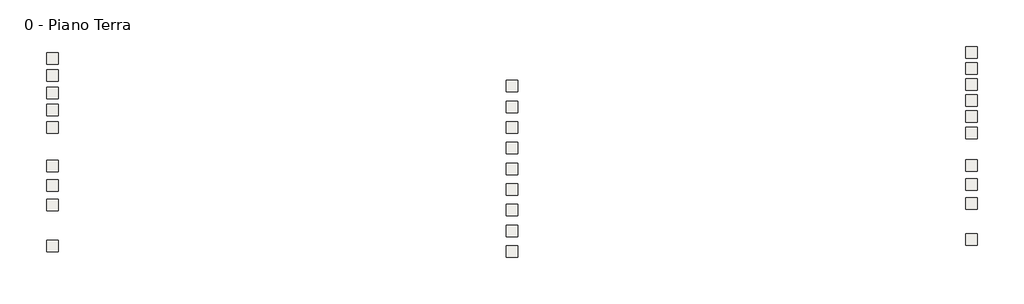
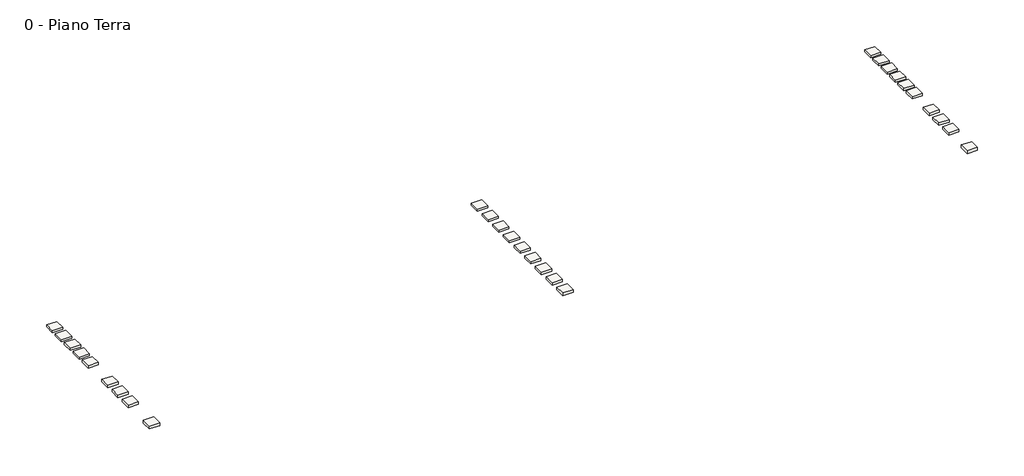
# One storey: 28 roofs.
"""IFC4 building model written with IfcOpenShell, lengths in millimetres."""

from ifc_helpers import new_model, si_unit, origin, origin_with_axes, place, context, project, spatial, polyline, outline, extrude, element, save

model = new_model("IFC4")

# Units and contexts
model_context = context("Model", 3, world=origin())
ifc_project = project(units=[si_unit("LENGTHUNIT", "METRE", prefix="MILLI")], contexts=[model_context])

# Site, building, storey
site = spatial("IfcSite", under=ifc_project)
building = spatial("IfcBuilding", under=site)
storey = spatial("IfcBuildingStorey", under=building, Name="0 - Piano Terra", Elevation=0.0)

# Roofs
placement = place(None, origin())
element("IfcRoof", 1, ObjectType="Sistema STIFERITE PENDENZATO con pannello CLASS B 30-70 mm ʎd 0,028 W/mK 30mm", at=placement, inside=storey, context=model_context, shape_type="SweptSolid", body=[
    extrude(outline(polyline([(18800.0, 59417.4866671), (19800.0, 59417.4866671), (19800.0, 58417.4866671), (18800.0, 58417.4866671), (18800.0, 59417.4866671)])), origin_with_axes(), (0.0, 0.0, 1.0), 202.0),
])
element("IfcRoof", 2, ObjectType="Sistema STIFERITE PENDENZATO con pannello CLASS B 30-70 mm ʎd 0,028 W/mK 40mm", at=placement, inside=storey, context=model_context, shape_type="SweptSolid", body=[
    extrude(outline(polyline([(18800.0, 57914.8515173), (19800.0, 57914.8515173), (19800.0, 56914.8515173), (18800.0, 56914.8515173), (18800.0, 57914.8515173)])), origin_with_axes(), (0.0, 0.0, 1.0), 214.0),
])
element("IfcRoof", 3, ObjectType="Sistema STIFERITE PENDENZATO con pannello CLASS B 30-70 mm ʎd 0,028 W/mK 50mm", at=placement, inside=storey, context=model_context, shape_type="SweptSolid", body=[
    extrude(outline(polyline([(18800.0, 56411.6469535), (19800.0, 56411.6469535), (19800.0, 55411.6469535), (18800.0, 55411.6469535), (18800.0, 56411.6469535)])), origin_with_axes(), (0.0, 0.0, 1.0), 224.0),
])
element("IfcRoof", 4, ObjectType="Sistema STIFERITE PENDENZATO con pannello CLASS B 30-70 mm ʎd 0,028 W/mK 60mm", at=placement, inside=storey, context=model_context, shape_type="SweptSolid", body=[
    extrude(outline(polyline([(18800.0, 54907.9433722), (19800.0, 54907.9433722), (19800.0, 53907.9433722), (18800.0, 53907.9433722), (18800.0, 54907.9433722)])), origin_with_axes(), (0.0, 0.0, 1.0), 234.0),
])
element("IfcRoof", 5, ObjectType="Sistema STIFERITE PENDENZATO con pannello CLASS B 30-70 mm ʎd 0,028 W/mK 70mm", at=placement, inside=storey, context=model_context, shape_type="SweptSolid", body=[
    extrude(outline(polyline([(18800.0, 53407.9433722), (19800.0, 53407.9433722), (19800.0, 52407.9433722), (18800.0, 52407.9433722), (18800.0, 53407.9433722)])), origin_with_axes(), (0.0, 0.0, 1.0), 244.0),
])
element("IfcRoof", 6, ObjectType="Sistema STIFERITE PENDENZATO con pannello CLASS B 80-100 mm ʎd 0,026 W/mK 80mm", at=placement, inside=storey, context=model_context, shape_type="SweptSolid", body=[
    extrude(outline(polyline([(18800.0, 50069.0569029), (19800.0, 50069.0569029), (19800.0, 49069.0569029), (18800.0, 49069.0569029), (18800.0, 50069.0569029)])), origin_with_axes(), (0.0, 0.0, 1.0), 254.0),
])
element("IfcRoof", 7, ObjectType="Sistema STIFERITE PENDENZATO con pannello CLASS B 80-100 mm ʎd 0,026 W/mK 90mm", at=placement, inside=storey, context=model_context, shape_type="SweptSolid", body=[
    extrude(outline(polyline([(18800.0, 48366.207392), (19800.0, 48366.207392), (19800.0, 47366.207392), (18800.0, 47366.207392), (18800.0, 48366.207392)])), origin_with_axes(), (0.0, 0.0, 1.0), 264.0),
])
element("IfcRoof", 8, ObjectType="Sistema STIFERITE PENDENZATO con pannello CLASS B 80-100 mm ʎd 0,026 W/mK 100mm", at=placement, inside=storey, context=model_context, shape_type="SweptSolid", body=[
    extrude(outline(polyline([(18800.0, 46669.4443496), (19800.0, 46669.4443496), (19800.0, 45669.4443496), (18800.0, 45669.4443496), (18800.0, 46669.4443496)])), origin_with_axes(), (0.0, 0.0, 1.0), 274.0),
])
element("IfcRoof", 9, ObjectType="Sistema STIFERITE PENDENZATO con pannello CLASS B 120-140 mm ʎd 0,025 W/mK 120mm", at=placement, inside=storey, context=model_context, shape_type="SweptSolid", body=[
    extrude(outline(polyline([(18800.0, 43082.3210978), (19800.0, 43082.3210978), (19800.0, 42082.3210978), (18800.0, 42082.3210978), (18800.0, 43082.3210978)])), origin_with_axes(), (0.0, 0.0, 1.0), 294.0),
])
element("IfcRoof", 10, ObjectType="Sistema STIFERITE PENDENZATO con pannello CLASS GT 20-140 mm ʎd 0,022 W/mK 30mm", at=placement, inside=storey, context=model_context, shape_type="SweptSolid", body=[
    extrude(outline(polyline([(58800.0, 57001.6816719), (59800.0, 57001.6816719), (59800.0, 56001.6816719), (58800.0, 56001.6816719), (58800.0, 57001.6816719)])), origin_with_axes(), (0.0, 0.0, 1.0), 204.0),
])
element("IfcRoof", 11, ObjectType="Sistema STIFERITE PENDENZATO con pannello CLASS GT 20-140 mm ʎd 0,022 W/mK 40mm", at=placement, inside=storey, context=model_context, shape_type="SweptSolid", body=[
    extrude(outline(polyline([(58800.0, 55206.3623989), (59800.0, 55206.3623989), (59800.0, 54206.3623989), (58800.0, 54206.3623989), (58800.0, 55206.3623989)])), origin_with_axes(), (0.0, 0.0, 1.0), 214.0),
])
element("IfcRoof", 12, ObjectType="Sistema STIFERITE PENDENZATO con pannello CLASS GT 20-140 mm ʎd 0,022 W/mK 50mm", at=placement, inside=storey, context=model_context, shape_type="SweptSolid", body=[
    extrude(outline(polyline([(58800.0, 53407.2711087), (59800.0, 53407.2711087), (59800.0, 52407.2711087), (58800.0, 52407.2711087), (58800.0, 53407.2711087)])), origin_with_axes(), (0.0, 0.0, 1.0), 224.0),
])
element("IfcRoof", 13, ObjectType="Sistema STIFERITE PENDENZATO con pannello CLASS GT 20-140 mm ʎd 0,022 W/mK 60mm", at=placement, inside=storey, context=model_context, shape_type="SweptSolid", body=[
    extrude(outline(polyline([(58800.0, 51606.0573734), (59800.0, 51606.0573734), (59800.0, 50606.0573734), (58800.0, 50606.0573734), (58800.0, 51606.0573734)])), origin_with_axes(), (0.0, 0.0, 1.0), 234.0),
])
element("IfcRoof", 14, ObjectType="Sistema STIFERITE PENDENZATO con pannello CLASS GT 20-140 mm ʎd 0,022 W/mK 70mm", at=placement, inside=storey, context=model_context, shape_type="SweptSolid", body=[
    extrude(outline(polyline([(58800.0, 49804.716677), (59800.0, 49804.716677), (59800.0, 48804.716677), (58800.0, 48804.716677), (58800.0, 49804.716677)])), origin_with_axes(), (0.0, 0.0, 1.0), 244.0),
])
element("IfcRoof", 15, ObjectType="Sistema STIFERITE PENDENZATO con pannello CLASS GT 20-140 mm ʎd 0,022 W/mK 80mm", at=placement, inside=storey, context=model_context, shape_type="SweptSolid", body=[
    extrude(outline(polyline([(58800.0, 48007.6243434), (59800.0, 48007.6243434), (59800.0, 47007.6243434), (58800.0, 47007.6243434), (58800.0, 48007.6243434)])), origin_with_axes(), (0.0, 0.0, 1.0), 244.0),
])
element("IfcRoof", 16, ObjectType="Sistema STIFERITE PENDENZATO con pannello CLASS GT 20-140 mm ʎd 0,022 W/mK 90mm", at=placement, inside=storey, context=model_context, shape_type="SweptSolid", body=[
    extrude(outline(polyline([(58800.0, 46204.8268308), (59800.0, 46204.8268308), (59800.0, 45204.8268308), (58800.0, 45204.8268308), (58800.0, 46204.8268308)])), origin_with_axes(), (0.0, 0.0, 1.0), 264.0),
])
element("IfcRoof", 17, ObjectType="Sistema STIFERITE PENDENZATO con pannello CLASS GT 20-140 mm ʎd 0,022 W/mK 100mm", at=placement, inside=storey, context=model_context, shape_type="SweptSolid", body=[
    extrude(outline(polyline([(58800.0, 44407.4409974), (59800.0, 44407.4409974), (59800.0, 43407.4409974), (58800.0, 43407.4409974), (58800.0, 44407.4409974)])), origin_with_axes(), (0.0, 0.0, 1.0), 274.0),
])
element("IfcRoof", 18, ObjectType="Sistema STIFERITE PENDENZATO con pannello CLASS GT 20-140 mm ʎd 0,022 W/mK 120mm", at=placement, inside=storey, context=model_context, shape_type="SweptSolid", body=[
    extrude(outline(polyline([(58800.0, 42603.3785867), (59800.0, 42603.3785867), (59800.0, 41603.3785867), (58800.0, 41603.3785867), (58800.0, 42603.3785867)])), origin_with_axes(), (0.0, 0.0, 1.0), 294.0),
])
element("IfcRoof", 19, ObjectType="Sistema STIFERITE PENDENZATO con pannello CLASS S 20-70 mm ʎd 0,028 W/mK 20mm", at=placement, inside=storey, context=model_context, shape_type="SweptSolid", body=[
    extrude(outline(polyline([(98800.0, 59945.7796001), (99800.0, 59945.7796001), (99800.0, 58945.7796001), (98800.0, 58945.7796001), (98800.0, 59945.7796001)])), origin_with_axes(), (0.0, 0.0, 1.0), 194.0),
])
element("IfcRoof", 20, ObjectType="Sistema STIFERITE PENDENZATO con pannello CLASS S 20-70 mm ʎd 0,028 W/mK 30mm", at=placement, inside=storey, context=model_context, shape_type="SweptSolid", body=[
    extrude(outline(polyline([(98800.0, 58546.3642662), (99800.0, 58546.3642662), (99800.0, 57546.3642662), (98800.0, 57546.3642662), (98800.0, 58546.3642662)])), origin_with_axes(), (0.0, 0.0, 1.0), 204.0),
])
element("IfcRoof", 21, ObjectType="Sistema STIFERITE PENDENZATO con pannello CLASS S 20-70 mm ʎd 0,028 W/mK 40mm", at=placement, inside=storey, context=model_context, shape_type="SweptSolid", body=[
    extrude(outline(polyline([(98800.0, 57141.5463271), (99800.0, 57141.5463271), (99800.0, 56141.5463271), (98800.0, 56141.5463271), (98800.0, 57141.5463271)])), origin_with_axes(), (0.0, 0.0, 1.0), 214.0),
])
element("IfcRoof", 22, ObjectType="Sistema STIFERITE PENDENZATO con pannello CLASS S 20-70 mm ʎd 0,028 W/mK 50mm", at=placement, inside=storey, context=model_context, shape_type="SweptSolid", body=[
    extrude(outline(polyline([(98800.0, 55741.6666254), (99800.0, 55741.6666254), (99800.0, 54741.6666254), (98800.0, 54741.6666254), (98800.0, 55741.6666254)])), origin_with_axes(), (0.0, 0.0, 1.0), 224.0),
])
element("IfcRoof", 23, ObjectType="Sistema STIFERITE PENDENZATO con pannello CLASS S 20-70 mm ʎd 0,028 W/mK 60mm", at=placement, inside=storey, context=model_context, shape_type="SweptSolid", body=[
    extrude(outline(polyline([(98800.0, 54342.5251221), (99800.0, 54342.5251221), (99800.0, 53342.5251221), (98800.0, 53342.5251221), (98800.0, 54342.5251221)])), origin_with_axes(), (0.0, 0.0, 1.0), 234.0),
])
element("IfcRoof", 24, ObjectType="Sistema STIFERITE PENDENZATO con pannello CLASS S 20-70 mm ʎd 0,028 W/mK 70mm", at=placement, inside=storey, context=model_context, shape_type="SweptSolid", body=[
    extrude(outline(polyline([(98800.0, 52938.4680785), (99800.0, 52938.4680785), (99800.0, 51938.4680785), (98800.0, 51938.4680785), (98800.0, 52938.4680785)])), origin_with_axes(), (0.0, 0.0, 1.0), 244.0),
])
element("IfcRoof", 25, ObjectType="Sistema STIFERITE PENDENZATO con pannello CLASS S 80-100 mm ʎd 0,026 W/mK 80mm", at=placement, inside=storey, context=model_context, shape_type="SweptSolid", body=[
    extrude(outline(polyline([(98800.0, 50083.1150143), (99800.0, 50083.1150143), (99800.0, 49083.1150143), (98800.0, 49083.1150143), (98800.0, 50083.1150143)])), origin_with_axes(), (0.0, 0.0, 1.0), 254.0),
])
element("IfcRoof", 26, ObjectType="Sistema STIFERITE PENDENZATO con pannello CLASS S 80-100 mm ʎd 0,026 W/mK 90mm", at=placement, inside=storey, context=model_context, shape_type="SweptSolid", body=[
    extrude(outline(polyline([(98800.0, 48434.4008182), (99800.0, 48434.4008182), (99800.0, 47434.4008182), (98800.0, 47434.4008182), (98800.0, 48434.4008182)])), origin_with_axes(), (0.0, 0.0, 1.0), 264.0),
])
element("IfcRoof", 27, ObjectType="Sistema STIFERITE PENDENZATO con pannello CLASS S 80-100 mm ʎd 0,026 W/mK 100mm", at=placement, inside=storey, context=model_context, shape_type="SweptSolid", body=[
    extrude(outline(polyline([(98800.0, 46783.502461), (99800.0, 46783.502461), (99800.0, 45783.502461), (98800.0, 45783.502461), (98800.0, 46783.502461)])), origin_with_axes(), (0.0, 0.0, 1.0), 274.0),
])
element("IfcRoof", 28, ObjectType="Sistema STIFERITE PENDENZATO con pannello CLASS S 120-160 mm ʎd 0,025 W/mK 120mm", at=placement, inside=storey, context=model_context, shape_type="SweptSolid", body=[
    extrude(outline(polyline([(98800.0, 43643.5882645), (99800.0, 43643.5882645), (99800.0, 42643.5882645), (98800.0, 42643.5882645), (98800.0, 43643.5882645)])), origin_with_axes(), (0.0, 0.0, 1.0), 294.0),
])

save(model, "model.ifc")
